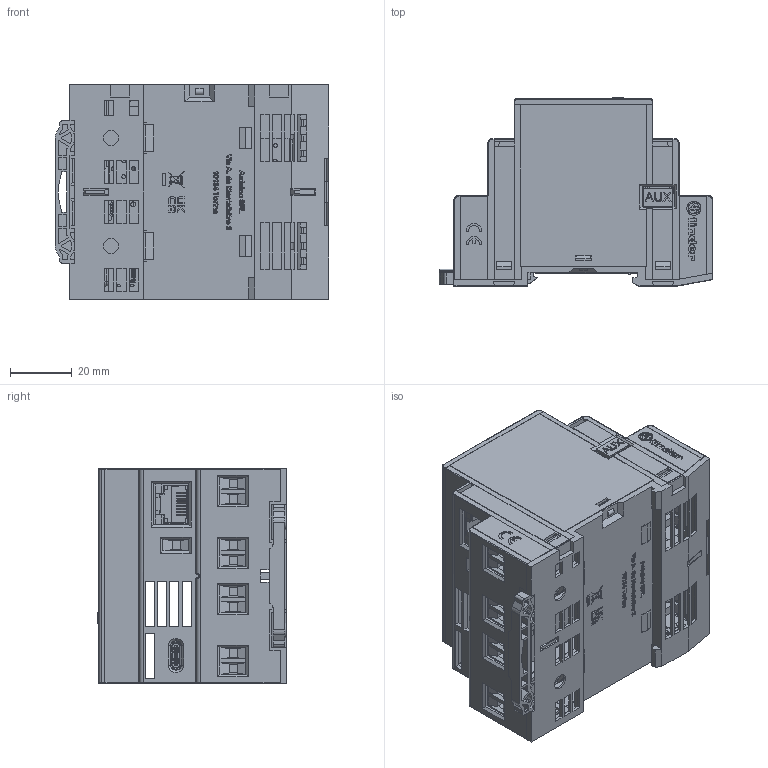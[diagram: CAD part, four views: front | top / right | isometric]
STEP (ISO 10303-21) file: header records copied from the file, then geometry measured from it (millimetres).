
FILE_DESCRIPTION(/* description */ ('Unknown'),/* implementation_level */ '2;1');
FILE_NAME(/* name */ 'AFX00001-AFX00002-step',/* time_stamp */ '2023-07-14T09:15:49+02:00',/* author */ ('Unknown'),/* organization */ ('Unknown'),/* preprocessor_version */ 'ST-DEVELOPER v18.102',/* originating_system */ 'Solid Edge',/* authorisation */ 'Unknown');
FILE_SCHEMA (('INTEGRATED_CNC_SCHEMA','AUTOMOTIVE_DESIGN {1 0 10303 214 3 1 1}'));
Products named in the file (1): 8A04_8310 ARDUINO
Bounding box: 88.85 x 61.15 x 70 mm (x, y, z)
Surface area: 57963.6 mm2 (no closed solid volume)
Topology: 0 solids, 159 shells, 4937 faces, 15721 edges, 11049 vertices
Faces by surface type: plane 4363, cylinder 441, bspline 55, cone 39, torus 39
Full cylindrical faces by diameter (mm): 0.407 x1, 2.2 x1, 2.6 x29, 2.85 x29, 3 x4, 3.8 x29, 4 x1, 4.5 x1, 5 x2
Entity records: 178668 total; most frequent: CARTESIAN_POINT 34228, ORIENTED_EDGE 27568, DIRECTION 26583, EDGE_CURVE 15497, LINE 13881, VECTOR 13881, VERTEX_POINT 10955, AXIS2_PLACEMENT_3D 6351
